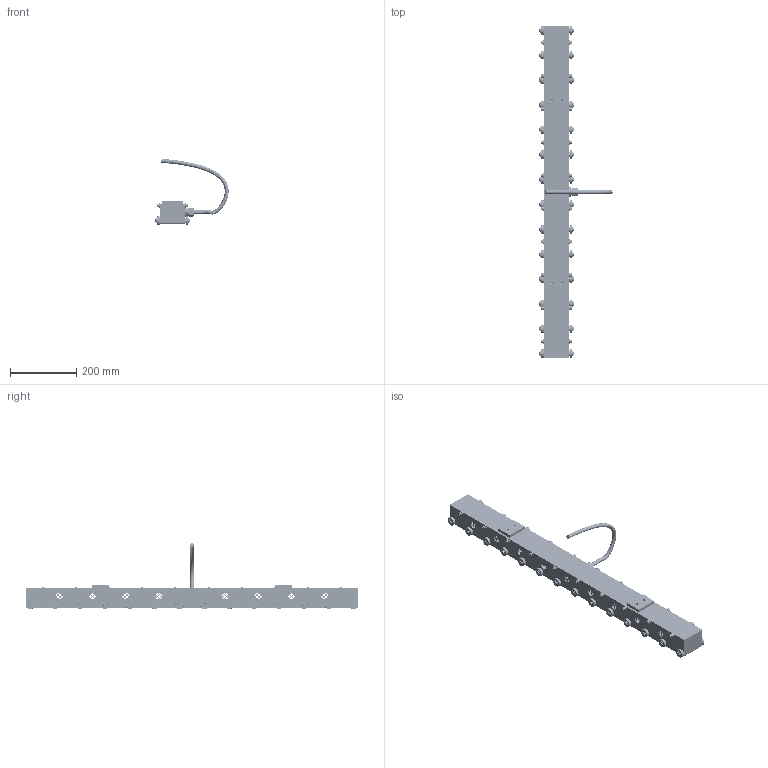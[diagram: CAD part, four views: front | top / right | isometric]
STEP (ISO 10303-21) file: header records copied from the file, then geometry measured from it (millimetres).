
FILE_DESCRIPTION(/* description */ (''),/* implementation_level */ '2;1');
FILE_NAME(/* name */ 'C:/Users/hiroshi_y/Documents/Fusion 360/SEC-RO-077Wx067Hx1000L.step',/* time_stamp */ '2022-11-21T13:53:58+09:00',/* author */ (''),/* organization */ (''),/* preprocessor_version */ 'ST-DEVELOPER v19',/* originating_system */ 'Autodesk Translation Framework v11.7.0.108',/* authorisation */ '');
FILE_SCHEMA (('AUTOMOTIVE_DESIGN { 1 0 10303 214 3 1 1 }'));
Products named in the file (47): SEC-RO-077Wx067Hx1000L; BODY1; BODY2; CAP_BOLT_M6(L=16); CAP_BOLT_M6(L=16) v1(ミラー); Shaft; 6000ZZ; C2BG12-16; O-VCT 2S/2C; Shaft_1; 6000ZZ_1; Shaft_2; 6000ZZ_2; Shaft_3; 6000ZZ_3; Shaft_4; 6000ZZ_4; Shaft_5; 6000ZZ_5; Shaft_6; 6000ZZ_6; Shaft_7; 6000ZZ_7; Shaft_8; 6000ZZ_8; Shaft_9; 6000ZZ_9; Shaft_10; 6000ZZ_10; Shaft_11; 6000ZZ_11; Shaft_12; 6000ZZ_12; Shaft_13; 6000ZZ_13; 6000ZZ_shield; 6000ZZ_or; 6000ZZ_ball; 6000ZZ_cage; 6000ZZ_ir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
Assembly tree (247 placements, depth 4):
  SEC-RO-077Wx067Hx1000L
    BODY1
    BODY2
      CAP_BOLT_M6(L=16)  x10
      CAP_BOLT_M6(L=16) v1(ミラー)  x10
    Shaft
      6000ZZ
        6000ZZ_shield  x2
        6000ZZ_or
        6000ZZ_ball  x7
        6000ZZ_cage
        6000ZZ_ir
    Shaft(ミラー)  x14
      6000ZZ v1(ミラー)
        6000ZZ_shield(ミラー)  x2
        6000ZZ_or(ミラー)
        6000ZZ_ball(ミラー)  x7
        6000ZZ_cage(ミラー)
        6000ZZ_ir(ミラー)
    C2BG12-16
      O-VCT 2S/2C
    Shaft_1
      6000ZZ_1
        6000ZZ_shield  x2
        6000ZZ_or
        6000ZZ_ball  x7
        6000ZZ_cage
        6000ZZ_ir
    Shaft_2
      6000ZZ_2
        6000ZZ_shield  x2
        6000ZZ_or
        6000ZZ_ball  x7
        6000ZZ_cage
        6000ZZ_ir
    Shaft_3
      6000ZZ_3
        6000ZZ_shield  x2
        6000ZZ_or
        6000ZZ_ball  x7
        6000ZZ_cage
        6000ZZ_ir
    Shaft_4
      6000ZZ_4
        6000ZZ_shield  x2
        6000ZZ_or
        6000ZZ_ball  x7
        6000ZZ_cage
        6000ZZ_ir
    Shaft_5
      6000ZZ_5
        6000ZZ_shield  x2
        6000ZZ_or
        6000ZZ_ball  x7
        6000ZZ_cage
        6000ZZ_ir
    Shaft_6
      6000ZZ_6
        6000ZZ_shield  x2
        6000ZZ_or
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Bounding box: 220.74 x 1001 x 199.69 mm (x, y, z)
Volume: 1852258.9 mm3; surface area: 842573 mm2
Topology: 554 solids, 554 shells, 8021 faces, 21845 edges, 14436 vertices
Faces by surface type: plane 5708, cylinder 1354, sphere 392, torus 308, cone 258, bspline 1
Full cylindrical faces by diameter (mm): 2 x28, 5.035 x10, 6 x20, 6.5 x20, 7 x20, 8.526 x4, 10 x76, 10.2 x84, 12 x2, 13.75 x112, 14 x20, 14.703 x56, 16 x85, 16.809 x28, 19.191 x28, 20 x18, 20.4 x1, 20.704 x56, 21.85 x1, 22.8 x112, 23.884 x1, 24 x1, 25 x18, 26 x28, 27.6 x1
Entity records: 204100 total; most frequent: CARTESIAN_POINT 40565, ORIENTED_EDGE 34118, DIRECTION 30680, EDGE_CURVE 17059, LINE 15070, VECTOR 15070, VERTEX_POINT 11353, EDGE_LOOP 8126
